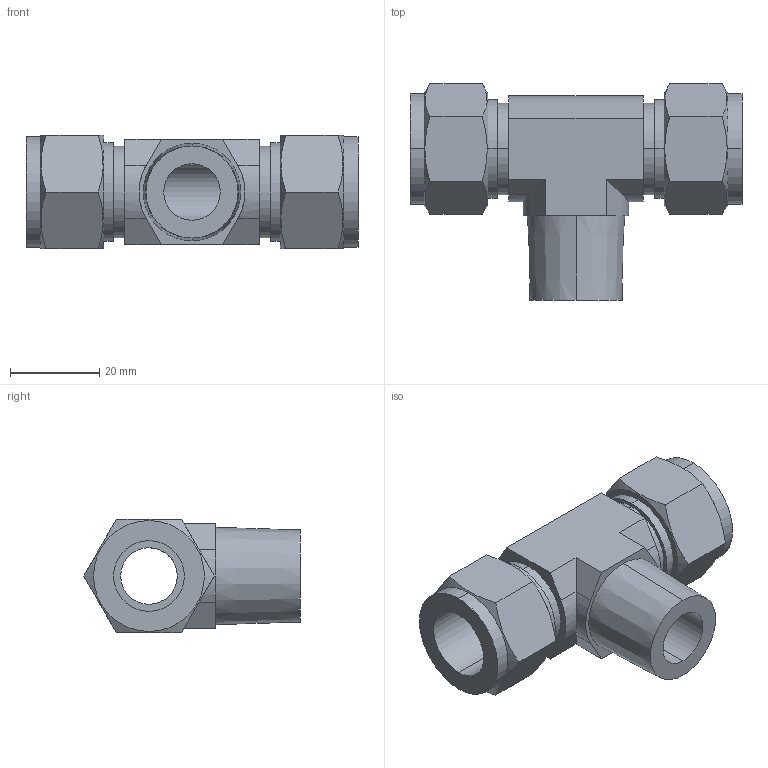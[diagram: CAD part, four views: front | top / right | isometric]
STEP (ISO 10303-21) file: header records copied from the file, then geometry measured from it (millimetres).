
FILE_DESCRIPTION (( 'STEP AP203' ), '1' );
FILE_NAME ('DTN 10-08 SS.STEP', '2009-09-08T10:09:47', ( 'Your User Name' ), ( 'Your Company Name' ), 'SwSTEP 2.0', 'SolidWorks 2008', '' );
FILE_SCHEMA (( 'CONFIG_CONTROL_DESIGN' ));
Length unit declared in the file: millimetre
Products named in the file (1): DTN 10-08 SS
Bounding box: 74.6 x 48.66 x 25.4 mm (x, y, z)
Volume: 29129.1 mm3; surface area: 13579.3 mm2
Topology: 1 solids, 1 shells, 72 faces, 174 edges, 112 vertices
Faces by surface type: plane 36, cylinder 26, cone 10
Entity records: 2387 total; most frequent: CARTESIAN_POINT 643, ORIENTED_EDGE 348, DIRECTION 336, EDGE_CURVE 174, AXIS2_PLACEMENT_3D 125, VERTEX_POINT 112, VECTOR 86, LINE 86
